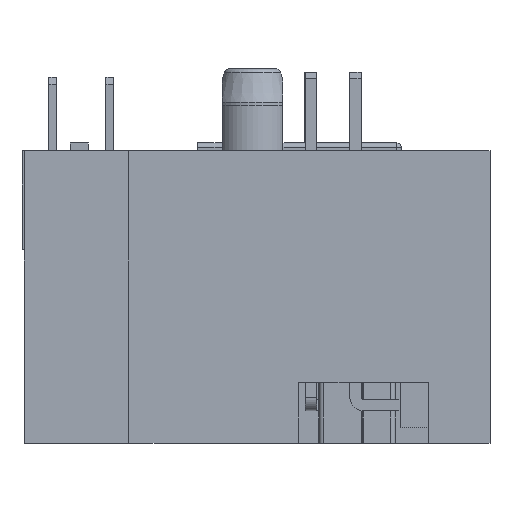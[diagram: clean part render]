
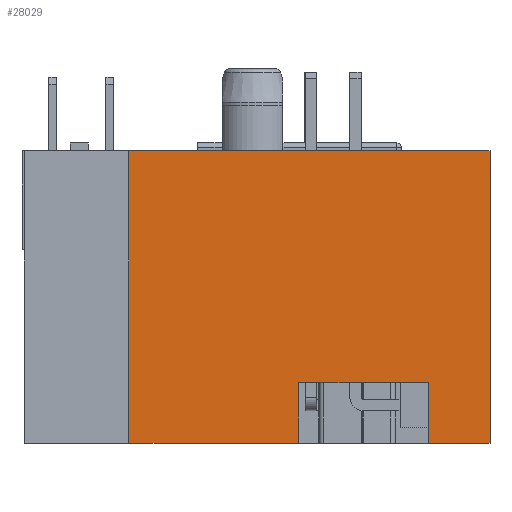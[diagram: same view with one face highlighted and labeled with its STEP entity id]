
A CAD part, left-side view. The second image highlights one B-rep face of the part: STEP entity #28029.
In plain terms, the highlighted planar face has unit normal (-1, 0, 0).
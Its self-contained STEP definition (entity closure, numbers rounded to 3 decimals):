
#21385=DIRECTION('',(0.,-1.,0.));
#21386=VECTOR('',#21385,13.);
#21387=CARTESIAN_POINT('',(-7.725,-0.25,-21.1));
#21388=LINE('',#21387,#21386);
#21493=DIRECTION('',(0.,0.,-1.));
#21494=VECTOR('',#21493,2.73);
#21495=CARTESIAN_POINT('',(-7.725,-0.25,-18.37));
#21496=LINE('',#21495,#21494);
#21513=DIRECTION('',(0.,1.,0.));
#21514=VECTOR('',#21513,2.7);
#21515=CARTESIAN_POINT('',(-7.725,-2.95,-18.37));
#21516=LINE('',#21515,#21514);
#21550=DIRECTION('',(0.,0.,-1.));
#21551=VECTOR('',#21550,5.77);
#21552=CARTESIAN_POINT('',(-7.725,-2.95,-12.6));
#21553=LINE('',#21552,#21551);
#21879=DIRECTION('',(0.,0.,-1.));
#21880=VECTOR('',#21879,7.55);
#21881=CARTESIAN_POINT('',(-7.725,-0.25,-5.05));
#21882=LINE('',#21881,#21880);
#22950=DIRECTION('',(0.,1.,0.));
#22951=VECTOR('',#22950,2.7);
#22952=CARTESIAN_POINT('',(-7.725,-2.95,-12.6));
#22953=LINE('',#22952,#22951);
#22954=DIRECTION('',(0.,-1.,0.));
#22955=VECTOR('',#22954,13.);
#22956=CARTESIAN_POINT('',(-7.725,-0.25,-5.05));
#22957=LINE('',#22956,#22955);
#22958=DIRECTION('',(0.,0.,-1.));
#22959=VECTOR('',#22958,16.05);
#22960=CARTESIAN_POINT('',(-7.725,-13.25,-5.05));
#22961=LINE('',#22960,#22959);
#23445=CARTESIAN_POINT('',(-7.725,-13.25,-21.1));
#23446=VERTEX_POINT('',#23445);
#23447=CARTESIAN_POINT('',(-7.725,-13.25,-5.05));
#23448=VERTEX_POINT('',#23447);
#23893=CARTESIAN_POINT('',(-7.725,-0.25,-21.1));
#23895=VERTEX_POINT('',#23893);
#23962=CARTESIAN_POINT('',(-7.725,-0.25,-18.37));
#23964=VERTEX_POINT('',#23962);
#23973=CARTESIAN_POINT('',(-7.725,-2.95,-18.37));
#23974=VERTEX_POINT('',#23973);
#23981=CARTESIAN_POINT('',(-7.725,-2.95,-12.6));
#23982=VERTEX_POINT('',#23981);
#24093=CARTESIAN_POINT('',(-7.725,-0.25,-5.05));
#24094=VERTEX_POINT('',#24093);
#24095=CARTESIAN_POINT('',(-7.725,-0.25,-12.6));
#24096=VERTEX_POINT('',#24095);
#28013=CARTESIAN_POINT('',(-7.725,-13.25,-21.1));
#28014=DIRECTION('',(-1.,0.,0.));
#28015=DIRECTION('',(0.,0.,1.));
#28016=AXIS2_PLACEMENT_3D('',#28013,#28014,#28015);
#28017=PLANE('',#28016);
#28018=ORIENTED_EDGE('',*,*,#25932,.F.);
#28019=ORIENTED_EDGE('',*,*,#25991,.F.);
#28021=ORIENTED_EDGE('',*,*,#28020,.T.);
#28022=ORIENTED_EDGE('',*,*,#26420,.F.);
#28023=ORIENTED_EDGE('',*,*,#28008,.T.);
#28024=ORIENTED_EDGE('',*,*,#24446,.T.);
#28025=ORIENTED_EDGE('',*,*,#25827,.F.);
#28026=ORIENTED_EDGE('',*,*,#25911,.F.);
#28027=EDGE_LOOP('',(#28018,#28019,#28021,#28022,#28023,#28024,#28025,#28026));
#28028=FACE_OUTER_BOUND('',#28027,.F.);
#28029=ADVANCED_FACE('',(#28028),#28017,.T.);
#24446=EDGE_CURVE('',#23448,#23446,#22961,.T.);
#25827=EDGE_CURVE('',#23895,#23446,#21388,.T.);
#25911=EDGE_CURVE('',#23964,#23895,#21496,.T.);
#25932=EDGE_CURVE('',#23974,#23964,#21516,.T.);
#25991=EDGE_CURVE('',#23982,#23974,#21553,.T.);
#26420=EDGE_CURVE('',#24094,#24096,#21882,.T.);
#28008=EDGE_CURVE('',#24094,#23448,#22957,.T.);
#28020=EDGE_CURVE('',#23982,#24096,#22953,.T.);
